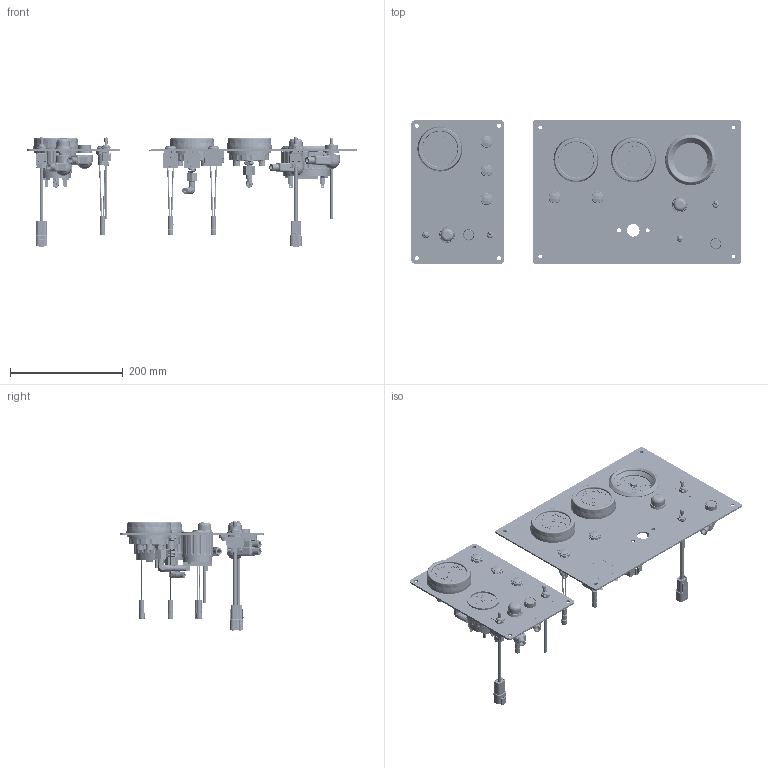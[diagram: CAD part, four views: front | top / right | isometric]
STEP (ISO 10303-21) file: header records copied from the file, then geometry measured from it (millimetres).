
FILE_DESCRIPTION (( 'STEP AP214' ), '1' );
FILE_NAME ('HPX-KBD DUAL CONTROL PANEL ASSEMBLY.STEP', '2017-10-30T11:59:04', ( '' ), ( '' ), 'SwSTEP 2.0', 'SolidWorks 2016', '' );
FILE_SCHEMA (( 'AUTOMOTIVE_DESIGN' ));
Length unit declared in the file: millimetre
Products named in the file (1): HPX-KBD DUAL CONTROL PANEL ASSEMBLY
Bounding box: 584.2 x 254 x 195.86 mm (x, y, z)
Surface area: 571918.6 mm2 (no closed solid volume)
Topology: 0 solids, 272 shells, 3705 faces, 19325 edges, 15537 vertices
Faces by surface type: plane 1508, cylinder 1147, torus 412, bspline 360, cone 209, sphere 69
Entity records: 321980 total; most frequent: CARTESIAN_POINT 141131, ORIENTED_EDGE 25844, DIRECTION 25702, EDGE_CURVE 19256, VERTEX_POINT 15509, VECTOR 10722, LINE 10722, AXIS2_PLACEMENT_3D 7490
